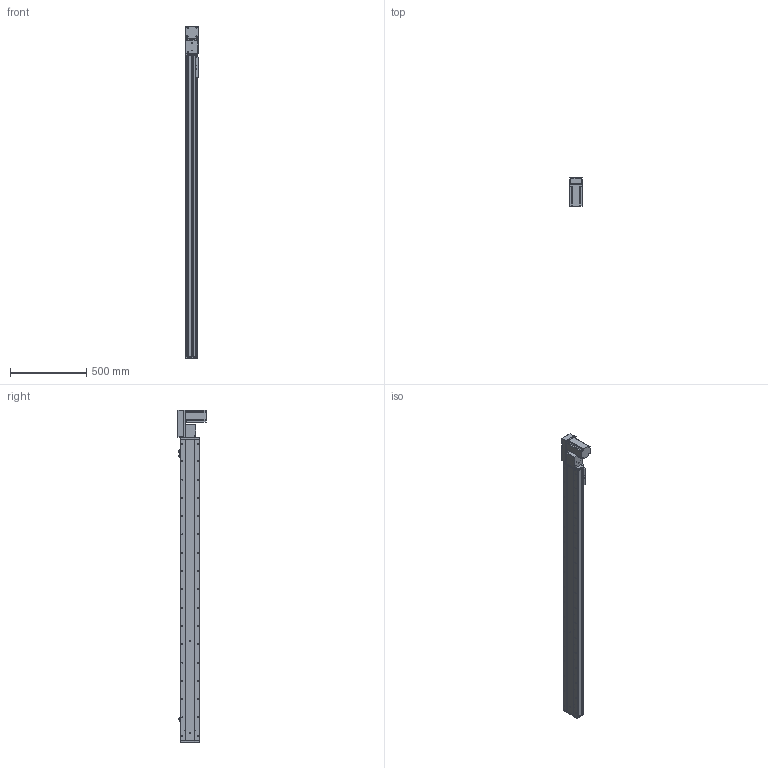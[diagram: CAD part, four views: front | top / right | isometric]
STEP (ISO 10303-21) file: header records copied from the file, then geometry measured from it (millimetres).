
FILE_DESCRIPTION (( 'STEP AP214' ), '1' );
FILE_NAME ('KSD130B-S1750-MRB-CM.STEP', '2019-11-15T07:48:15', ( '微软用户' ), ( '微软中国' ), 'SwSTEP 2.0', 'SolidWorks 2014', '' );
FILE_SCHEMA (( 'AUTOMOTIVE_DESIGN' ));
Length unit declared in the file: millimetre
Products named in the file (12): 130宽同步带安装座半封闭; 130宽端盖同步带半封闭; 130宽底板半封闭同步带-1750行程; KSD130B-S1750-MRB-CM; 台达ECMA－C20807AS伺服电机; 130宽模组保护罩上下左右折-同步带; 130宽模组马达安装板连板左右折同步带; 覜茼え100遵圉猾敕; U倰嫖萇EEㄜSX672; 130宽盖板半封闭同步带-1750行程; 130宽马达安装板同步带右-改镜向_默认<按加工>; 130宽马达安装板同步带半封闭
Assembly tree (13 placements, depth 2):
  KSD130B-S1750-MRB-CM
    130宽底板半封闭同步带-1750行程
    130宽端盖同步带半封闭
    130宽同步带安装座半封闭
    130宽马达安装板同步带半封闭
    130宽马达安装板同步带右-改镜向_默认<按加工>
    130宽盖板半封闭同步带-1750行程
    U倰嫖萇EEㄜSX672  x3
    覜茼え100遵圉猾敕
    130宽模组马达安装板连板左右折同步带
    130宽模组保护罩上下左右折-同步带
    台达ECMA－C20807AS伺服电机
Bounding box: 81 x 184.8 x 2177 mm (x, y, z)
Volume: 7011385.7 mm3; surface area: 1982816 mm2
Topology: 14 solids, 14 shells, 1727 faces, 5021 edges, 3181 vertices
Faces by surface type: cylinder 850, plane 650, cone 227
Entity records: 58799 total; most frequent: CARTESIAN_POINT 11358, DIRECTION 8859, ORIENTED_EDGE 8574, EDGE_CURVE 4287, AXIS2_PLACEMENT_3D 3262, VERTEX_POINT 2805, VECTOR 2335, LINE 2335
